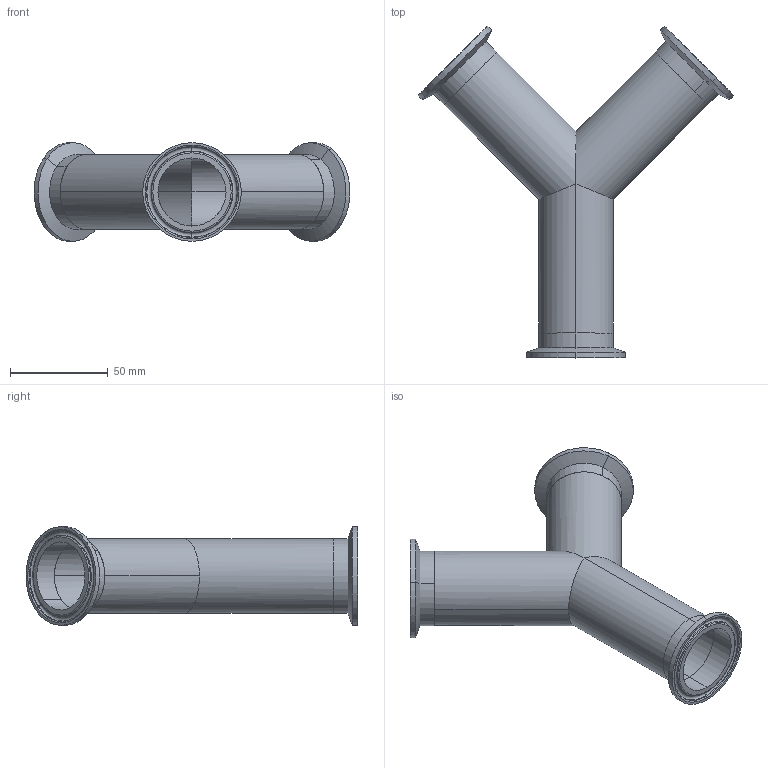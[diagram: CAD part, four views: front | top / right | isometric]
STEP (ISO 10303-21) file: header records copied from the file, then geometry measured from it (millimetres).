
FILE_DESCRIPTION (( 'STEP AP203' ), '1' );
FILE_NAME ('EG28B 1.5.STEP', '2021-10-08T19:18:20', ( '' ), ( '' ), 'SwSTEP 2.0', 'SolidWorks 2021', '' );
FILE_SCHEMA (( 'CONFIG_CONTROL_DESIGN' ));
Length unit declared in the file: inch
Products named in the file (3): EG28B 1.5; EG2CS1.5; V28WB1.5
Assembly tree (4 placements, depth 2):
  EG28B 1.5
    V28WB1.5
    EG2CS1.5  x3
Bounding box: 161.34 x 169.58 x 50.39 mm (x, y, z)
Volume: 54992.5 mm3; surface area: 63358.2 mm2
Topology: 4 solids, 4 shells, 78 faces, 162 edges, 94 vertices
Faces by surface type: cylinder 30, torus 18, cone 18, plane 12
Entity records: 1367 total; most frequent: CARTESIAN_POINT 203, DIRECTION 194, ORIENTED_EDGE 156, AXIS2_PLACEMENT_3D 85, EDGE_CURVE 78, VERTEX_POINT 46, EDGE_LOOP 42, CIRCLE 42
